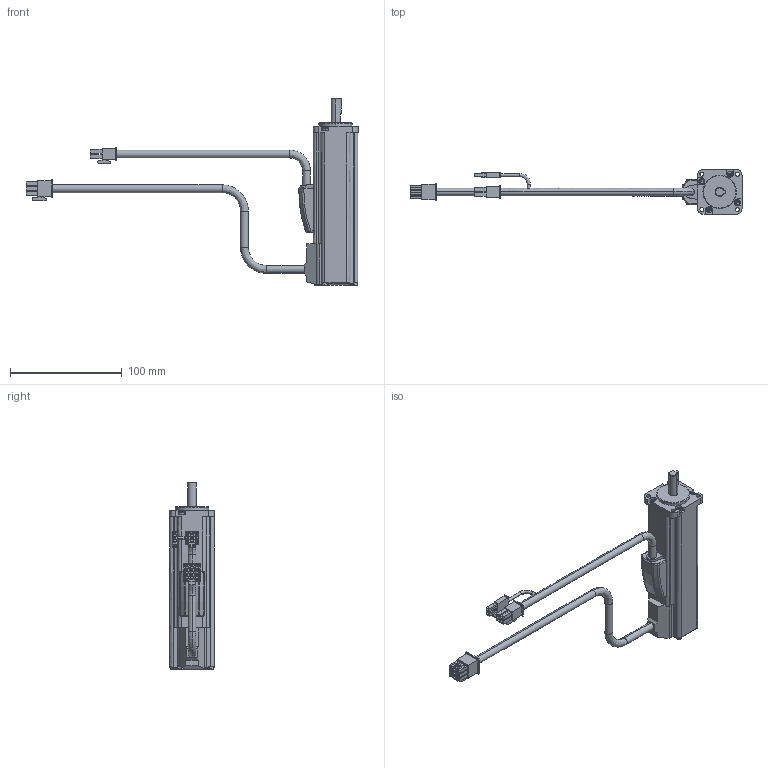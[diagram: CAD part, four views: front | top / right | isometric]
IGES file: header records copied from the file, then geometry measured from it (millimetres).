
Start section:  PTC IGES file: 10001023_rsmz-01bq-bh_brake.igs
Global section: file name: 10001023_rsmz-01bq-bh_brake.igs; native system: Pro/ENGINEER by Parametric Technology Corporation; preprocessor: 2004440; author: Administrator; organization: Unknown; date: 070829.201622; units: millimetre
Bounding box: 297.7 x 40 x 168.1 mm (x, y, z)
Volume: 237126.7 mm3; surface area: 44202.8 mm2
Topology: 1 solids, 1 shells, 505 faces, 1272 edges, 824 vertices
Faces by surface type: bspline 365, revolution 140
